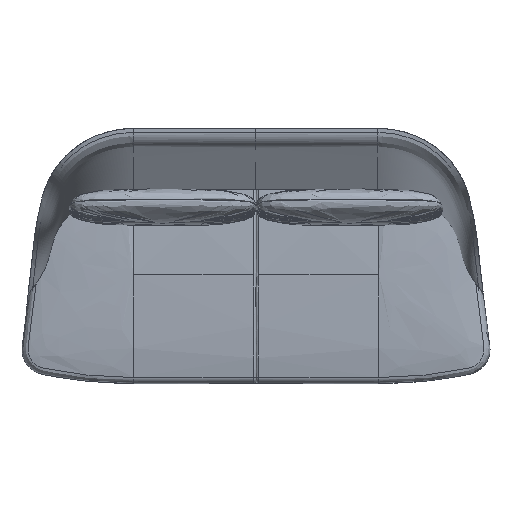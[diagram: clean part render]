
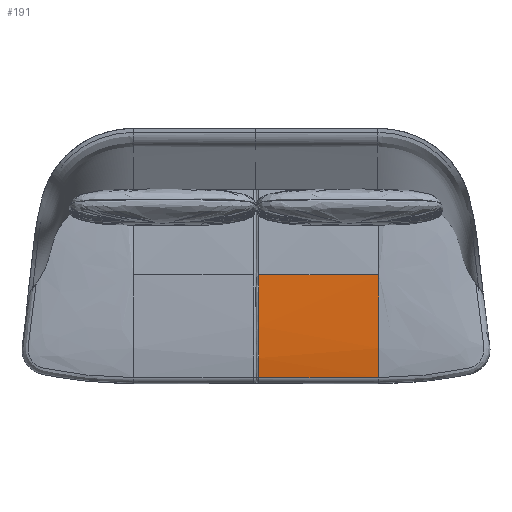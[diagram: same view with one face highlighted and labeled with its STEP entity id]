
A CAD part, top view. The second image highlights one B-rep face of the part: STEP entity #191.
In plain terms, the highlighted free-form (B-spline) face has degree [3, 1] with [4, 2] control points.
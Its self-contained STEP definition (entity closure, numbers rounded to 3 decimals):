
#191=ADVANCED_FACE('',(#503),#4294,.T.);
#503=FACE_OUTER_BOUND('',#815,.T.);
#815=EDGE_LOOP('',(#1204,#1205,#1206,#1207));
#1204=ORIENTED_EDGE('',*,*,#2534,.T.);
#1205=ORIENTED_EDGE('',*,*,#2530,.F.);
#1206=ORIENTED_EDGE('',*,*,#2533,.T.);
#1207=ORIENTED_EDGE('',*,*,#2519,.T.);
#2519=EDGE_CURVE('',#3893,#3892,#3547,.T.);
#2530=EDGE_CURVE('',#3902,#3903,#3549,.T.);
#2533=EDGE_CURVE('',#3902,#3893,#3551,.T.);
#2534=EDGE_CURVE('',#3892,#3903,#3213,.T.);
#3213=B_SPLINE_CURVE_WITH_KNOTS('',3,(#29173,#29174,#29175,#29176,#29177,
#29178,#29179,#29180,#29181,#29182,#29183,#29184,#29185,#29186,#29187,#29188,
#29189,#29190,#29191,#29192,#29193,#29194,#29195,#29196,#29197,#29198,#29199,
#29200,#29201,#29202,#29203,#29204,#29205,#29206,#29207,#29208,#29209,#29210,
#29211,#29212,#29213,#29214,#29215,#29216,#29217,#29218),.UNSPECIFIED.,
 .F.,.F.,(4,3,3,3,3,3,3,3,3,3,3,3,3,3,3,4),(0.,4.556,9.113,
18.224,27.336,36.448,54.672,72.895,
91.118,109.342,145.789,182.235,218.683,
255.129,291.575,318.245),.UNSPECIFIED.);
#3547=(
BOUNDED_CURVE()
B_SPLINE_CURVE(1,(#29022,#29023),.UNSPECIFIED.,.F.,.F.)
B_SPLINE_CURVE_WITH_KNOTS((2,2),(0.,384.822),.UNSPECIFIED.)
CURVE()
GEOMETRIC_REPRESENTATION_ITEM()
RATIONAL_B_SPLINE_CURVE((1.,1.))
REPRESENTATION_ITEM('')
);
#3549=(
BOUNDED_CURVE()
B_SPLINE_CURVE(1,(#29129,#29130),.UNSPECIFIED.,.F.,.F.)
B_SPLINE_CURVE_WITH_KNOTS((2,2),(0.,384.822),.UNSPECIFIED.)
CURVE()
GEOMETRIC_REPRESENTATION_ITEM()
RATIONAL_B_SPLINE_CURVE((1.,1.))
REPRESENTATION_ITEM('')
);
#3551=(
BOUNDED_CURVE()
B_SPLINE_CURVE(3,(#29169,#29170,#29171,#29172),.UNSPECIFIED.,.F.,.F.)
B_SPLINE_CURVE_WITH_KNOTS((4,4),(0.,334.52),.UNSPECIFIED.)
CURVE()
GEOMETRIC_REPRESENTATION_ITEM()
RATIONAL_B_SPLINE_CURVE((1.,1.,1.,1.))
REPRESENTATION_ITEM('')
);
#3892=VERTEX_POINT('',#28994);
#3893=VERTEX_POINT('',#28995);
#3902=VERTEX_POINT('',#29004);
#3903=VERTEX_POINT('',#29005);
#4294=(
BOUNDED_SURFACE()
B_SPLINE_SURFACE(3,1,((#5974,#5975),(#5976,#5977),(#5978,#5979),(#5980,
#5981)),.UNSPECIFIED.,.F.,.F.,.F.)
B_SPLINE_SURFACE_WITH_KNOTS((4,4),(2,2),(0.,334.52),(0.,785.644),
 .UNSPECIFIED.)
GEOMETRIC_REPRESENTATION_ITEM()
RATIONAL_B_SPLINE_SURFACE(((0.99,0.99),(0.99,
0.99),(0.99,0.99),(0.99,
0.99)))
REPRESENTATION_ITEM('')
SURFACE()
);
#5974=CARTESIAN_POINT('',(378.822,25.678,400.));
#5975=CARTESIAN_POINT('',(-378.24,25.678,400.));
#5976=CARTESIAN_POINT('',(378.822,-185.463,400.));
#5977=CARTESIAN_POINT('',(-378.24,-185.463,400.));
#5978=CARTESIAN_POINT('',(378.822,-261.95,390.49));
#5979=CARTESIAN_POINT('',(-378.24,-261.95,390.49));
#5980=CARTESIAN_POINT('',(378.822,-291.602,382.67));
#5981=CARTESIAN_POINT('',(-378.24,-291.602,382.67));
#28994=CARTESIAN_POINT('',(8.,-291.603,382.67));
#28995=CARTESIAN_POINT('',(378.822,-291.602,382.67));
#29004=CARTESIAN_POINT('',(378.822,25.678,400.));
#29005=CARTESIAN_POINT('',(8.,25.677,400.));
#29022=CARTESIAN_POINT('',(378.822,-291.602,382.67));
#29023=CARTESIAN_POINT('',(8.,-291.603,382.67));
#29129=CARTESIAN_POINT('',(378.822,25.678,400.));
#29130=CARTESIAN_POINT('',(8.,25.677,400.));
#29169=CARTESIAN_POINT('',(378.822,25.678,400.));
#29170=CARTESIAN_POINT('',(378.822,-185.463,400.));
#29171=CARTESIAN_POINT('',(378.822,-261.95,390.49));
#29172=CARTESIAN_POINT('',(378.822,-291.602,382.67));
#29173=CARTESIAN_POINT('',(8.,-291.603,382.67));
#29174=CARTESIAN_POINT('',(8.,-290.135,383.057));
#29175=CARTESIAN_POINT('',(8.,-288.659,383.42));
#29176=CARTESIAN_POINT('',(8.,-287.181,383.764));
#29177=CARTESIAN_POINT('',(8.,-285.702,384.108));
#29178=CARTESIAN_POINT('',(8.,-284.216,384.434));
#29179=CARTESIAN_POINT('',(8.,-282.73,384.744));
#29180=CARTESIAN_POINT('',(8.,-279.758,385.364));
#29181=CARTESIAN_POINT('',(8.,-276.772,385.925));
#29182=CARTESIAN_POINT('',(8.,-273.78,386.444));
#29183=CARTESIAN_POINT('',(8.,-270.787,386.963));
#29184=CARTESIAN_POINT('',(8.,-267.788,387.439));
#29185=CARTESIAN_POINT('',(8.,-264.783,387.885));
#29186=CARTESIAN_POINT('',(8.,-261.779,388.331));
#29187=CARTESIAN_POINT('',(8.,-258.77,388.745));
#29188=CARTESIAN_POINT('',(8.,-255.758,389.134));
#29189=CARTESIAN_POINT('',(8.,-249.734,389.913));
#29190=CARTESIAN_POINT('',(8.,-243.696,390.595));
#29191=CARTESIAN_POINT('',(8.,-237.653,391.211));
#29192=CARTESIAN_POINT('',(8.,-231.61,391.827));
#29193=CARTESIAN_POINT('',(8.,-225.561,392.377));
#29194=CARTESIAN_POINT('',(8.,-219.507,392.878));
#29195=CARTESIAN_POINT('',(8.,-213.454,393.379));
#29196=CARTESIAN_POINT('',(8.,-207.396,393.831));
#29197=CARTESIAN_POINT('',(8.,-201.336,394.246));
#29198=CARTESIAN_POINT('',(8.,-195.276,394.66));
#29199=CARTESIAN_POINT('',(8.,-189.213,395.037));
#29200=CARTESIAN_POINT('',(8.,-183.148,395.382));
#29201=CARTESIAN_POINT('',(8.,-171.019,396.074));
#29202=CARTESIAN_POINT('',(8.,-158.882,396.644));
#29203=CARTESIAN_POINT('',(8.,-146.743,397.13));
#29204=CARTESIAN_POINT('',(8.,-134.605,397.615));
#29205=CARTESIAN_POINT('',(8.,-122.461,398.015));
#29206=CARTESIAN_POINT('',(8.,-110.318,398.35));
#29207=CARTESIAN_POINT('',(8.,-98.174,398.686));
#29208=CARTESIAN_POINT('',(8.,-86.027,398.956));
#29209=CARTESIAN_POINT('',(8.,-73.88,399.175));
#29210=CARTESIAN_POINT('',(8.,-61.734,399.395));
#29211=CARTESIAN_POINT('',(8.,-49.586,399.562));
#29212=CARTESIAN_POINT('',(8.,-37.438,399.689));
#29213=CARTESIAN_POINT('',(8.,-25.29,399.815));
#29214=CARTESIAN_POINT('',(8.,-13.141,399.899));
#29215=CARTESIAN_POINT('',(8.,-0.992,399.947));
#29216=CARTESIAN_POINT('',(8.,7.898,399.983));
#29217=CARTESIAN_POINT('',(8.,16.788,400.));
#29218=CARTESIAN_POINT('',(8.,25.677,400.));
